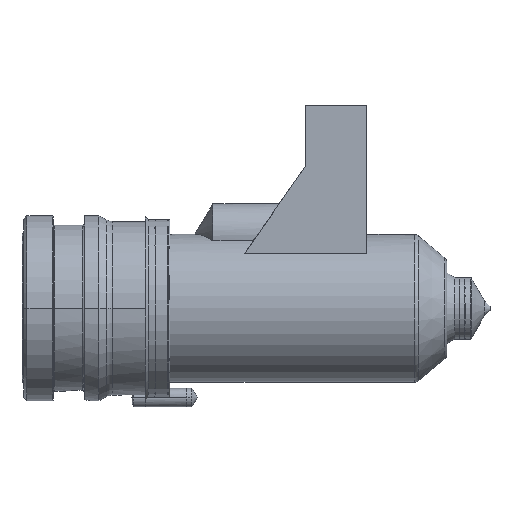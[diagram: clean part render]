
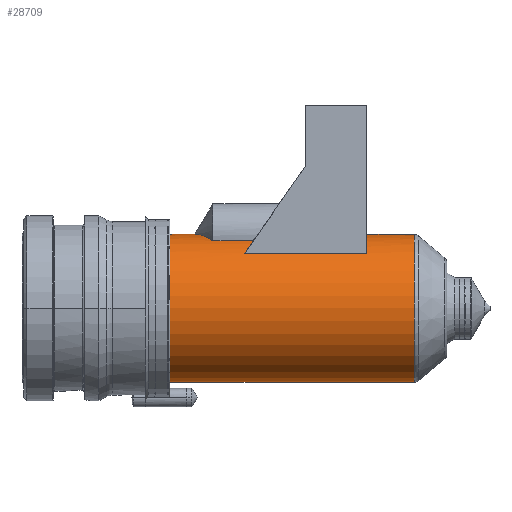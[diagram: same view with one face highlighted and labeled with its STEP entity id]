
A CAD part, left-side view. The second image highlights one B-rep face of the part: STEP entity #28709.
In plain terms, the highlighted cylindrical face has radius 12 mm (diameter 24 mm), a partial arc.
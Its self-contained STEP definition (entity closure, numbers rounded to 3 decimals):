
#27867=DIRECTION('',(0.,-1.,0.));
#27868=VECTOR('',#27867,19.842);
#27869=CARTESIAN_POINT('',(-8.,-36.158,8.944));
#27870=LINE('',#27869,#27868);
#27903=CARTESIAN_POINT('',(0.,-24.,0.));
#27904=DIRECTION('',(0.,1.,0.));
#27905=DIRECTION('',(0.,0.,-1.));
#27906=AXIS2_PLACEMENT_3D('',#27903,#27904,#27905);
#27911=CARTESIAN_POINT('',(0.,-56.,0.));
#27912=DIRECTION('',(0.,-1.,0.));
#27913=DIRECTION('',(0.,0.,1.));
#27914=AXIS2_PLACEMENT_3D('',#27911,#27912,#27913);
#27948=CARTESIAN_POINT('',(-4.89,-37.568,
10.958));
#27949=CARTESIAN_POINT('',(-5.478,-37.385,
10.696));
#27950=CARTESIAN_POINT('',(-6.58,-36.962,
10.092));
#27951=CARTESIAN_POINT('',(-7.548,-36.441,
9.349));
#27952=CARTESIAN_POINT('',(-8.,-36.158,8.944));
#28002=DIRECTION('',(0.,-1.,0.));
#28003=VECTOR('',#28002,6.564);
#28004=CARTESIAN_POINT('',(-4.89,-31.004,
10.958));
#28005=LINE('',#28004,#28003);
#28018=CARTESIAN_POINT('',(0.,-28.,12.));
#28031=CARTESIAN_POINT('',(0.,-28.,12.));
#28032=CARTESIAN_POINT('',(-0.24,-28.144,12.));
#28033=CARTESIAN_POINT('',(-0.72,-28.433,
11.986));
#28034=CARTESIAN_POINT('',(-1.438,-28.865,
11.921));
#28035=CARTESIAN_POINT('',(-2.151,-29.297,
11.813));
#28036=CARTESIAN_POINT('',(-2.855,-29.727,
11.663));
#28037=CARTESIAN_POINT('',(-3.549,-30.155,
11.471));
#28038=CARTESIAN_POINT('',(-4.229,-30.582,
11.238));
#28039=CARTESIAN_POINT('',(-4.672,-30.864,
11.056));
#28040=CARTESIAN_POINT('',(-4.89,-31.004,
10.958));
#28045=DIRECTION('',(0.,1.,0.));
#28046=VECTOR('',#28045,4.);
#28047=CARTESIAN_POINT('',(0.,-28.,12.));
#28048=LINE('',#28047,#28046);
#28060=DIRECTION('',(0.,1.,0.));
#28061=VECTOR('',#28060,39.736);
#28062=CARTESIAN_POINT('',(0.,-63.736,-12.));
#28063=LINE('',#28062,#28061);
#28067=DIRECTION('',(0.,1.,0.));
#28068=VECTOR('',#28067,7.736);
#28069=CARTESIAN_POINT('',(0.,-63.736,12.));
#28070=LINE('',#28069,#28068);
#28315=CARTESIAN_POINT('',(0.,-63.736,0.));
#28316=DIRECTION('',(0.,-1.,0.));
#28317=DIRECTION('',(0.,0.,1.));
#28318=AXIS2_PLACEMENT_3D('',#28315,#28316,#28317);
#28583=CARTESIAN_POINT('',(0.,-63.736,-12.));
#28584=CARTESIAN_POINT('',(0.,-24.,-12.));
#28585=VERTEX_POINT('',#28583);
#28586=VERTEX_POINT('',#28584);
#28587=CARTESIAN_POINT('',(0.,-24.,12.));
#28588=VERTEX_POINT('',#28587);
#28589=CARTESIAN_POINT('',(0.,-63.736,12.));
#28591=VERTEX_POINT('',#28589);
#28648=CARTESIAN_POINT('',(-8.,-36.158,8.944));
#28649=CARTESIAN_POINT('',(-8.,-56.,8.944));
#28650=VERTEX_POINT('',#28648);
#28651=VERTEX_POINT('',#28649);
#28656=VERTEX_POINT('',#27948);
#28658=CARTESIAN_POINT('',(0.,-56.,12.));
#28659=VERTEX_POINT('',#28658);
#28662=VERTEX_POINT('',#28018);
#28663=CARTESIAN_POINT('',(-4.89,-31.004,
10.958));
#28664=VERTEX_POINT('',#28663);
#28683=CARTESIAN_POINT('',(0.,-17.2,0.));
#28684=DIRECTION('',(0.,-1.,0.));
#28685=DIRECTION('',(0.,0.,1.));
#28686=AXIS2_PLACEMENT_3D('',#28683,#28684,#28685);
#28687=CYLINDRICAL_SURFACE('',#28686,12.);
#28688=ORIENTED_EDGE('',*,*,#28670,.T.);
#28690=ORIENTED_EDGE('',*,*,#28689,.F.);
#28692=ORIENTED_EDGE('',*,*,#28691,.F.);
#28694=ORIENTED_EDGE('',*,*,#28693,.T.);
#28696=ORIENTED_EDGE('',*,*,#28695,.T.);
#28698=ORIENTED_EDGE('',*,*,#28697,.T.);
#28700=ORIENTED_EDGE('',*,*,#28699,.F.);
#28702=ORIENTED_EDGE('',*,*,#28701,.T.);
#28704=ORIENTED_EDGE('',*,*,#28703,.T.);
#28706=ORIENTED_EDGE('',*,*,#28705,.T.);
#28707=EDGE_LOOP('',(#28688,#28690,#28692,#28694,#28696,#28698,#28700,#28702,
#28704,#28706));
#28708=FACE_OUTER_BOUND('',#28707,.F.);
#28709=ADVANCED_FACE('',(#28708),#28687,.T.);
#27907=CIRCLE('',#27906,12.);
#27915=CIRCLE('',#27914,12.);
#27953=B_SPLINE_CURVE_WITH_KNOTS('',3,(#27948,#27949,#27950,#27951,#27952),
.UNSPECIFIED.,.F.,.F.,(4,1,4),(0.,0.5,1.),.UNSPECIFIED.);
#28041=B_SPLINE_CURVE_WITH_KNOTS('',3,(#28031,#28032,#28033,#28034,#28035,
#28036,#28037,#28038,#28039,#28040),.UNSPECIFIED.,.F.,.F.,(4,1,1,1,1,1,1,4),(
0.,0.143,0.286,0.429,0.571,
0.714,0.857,1.),.UNSPECIFIED.);
#28319=CIRCLE('',#28318,12.);
#28670=EDGE_CURVE('',#28650,#28651,#27870,.T.);
#28689=EDGE_CURVE('',#28659,#28651,#27915,.T.);
#28691=EDGE_CURVE('',#28591,#28659,#28070,.T.);
#28693=EDGE_CURVE('',#28591,#28585,#28319,.T.);
#28695=EDGE_CURVE('',#28585,#28586,#28063,.T.);
#28697=EDGE_CURVE('',#28586,#28588,#27907,.T.);
#28699=EDGE_CURVE('',#28662,#28588,#28048,.T.);
#28701=EDGE_CURVE('',#28662,#28664,#28041,.T.);
#28703=EDGE_CURVE('',#28664,#28656,#28005,.T.);
#28705=EDGE_CURVE('',#28656,#28650,#27953,.T.);
